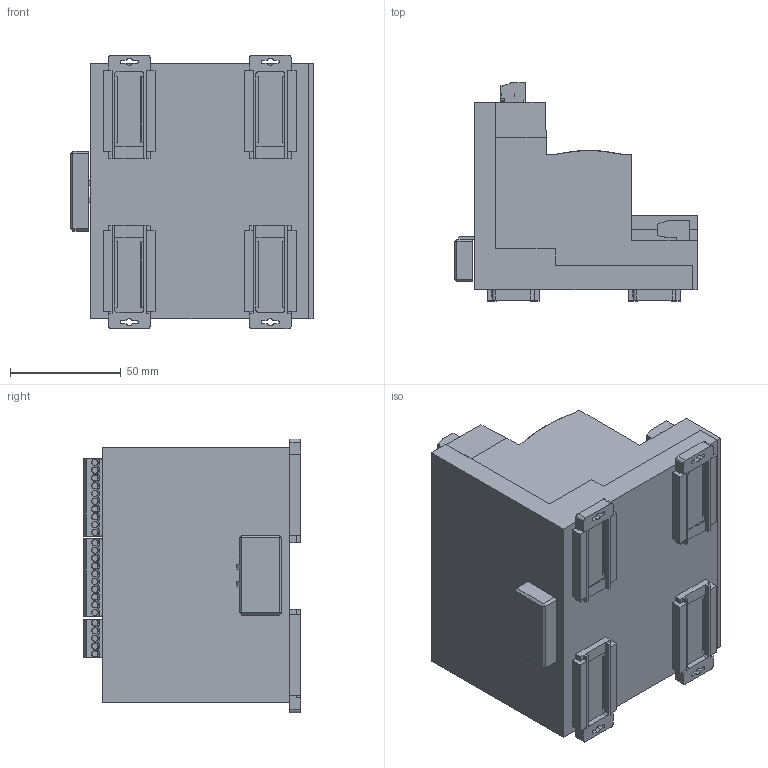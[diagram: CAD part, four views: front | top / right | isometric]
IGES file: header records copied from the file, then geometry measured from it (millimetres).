
Start section: SolidWorks IGES file using analytic representation for surfaces
Global section: file name: C:\Users\henriqueaa\Desktop\Notas\REVISÃO DOCS SITE\ZZ 421902049 - PLC410 - DOCS PARA SITE WEG\ZBC\PLC410.IGS; native system: SolidWorks 2018; preprocessor: SolidWorks 2018; author: henriqueaa; date: 230821.092824; units: millimetre
Bounding box: 109.48 x 98.19 x 123.46 mm (x, y, z)
Surface area: 135574.7 mm2 (no closed solid volume)
Topology: 0 solids, 0 shells, 717 faces, 8276 edges, 8276 vertices
Faces by surface type: bspline 478, revolution 239
